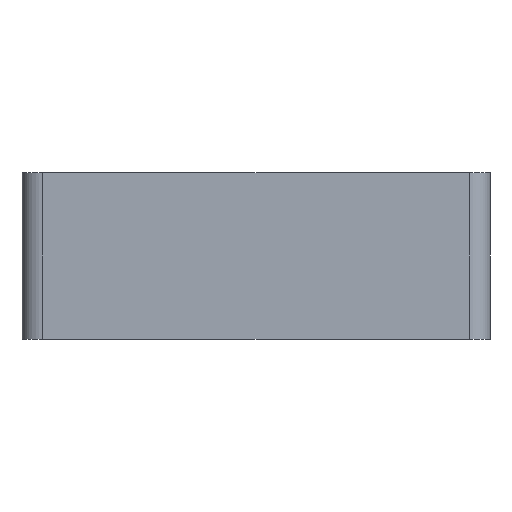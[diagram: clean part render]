
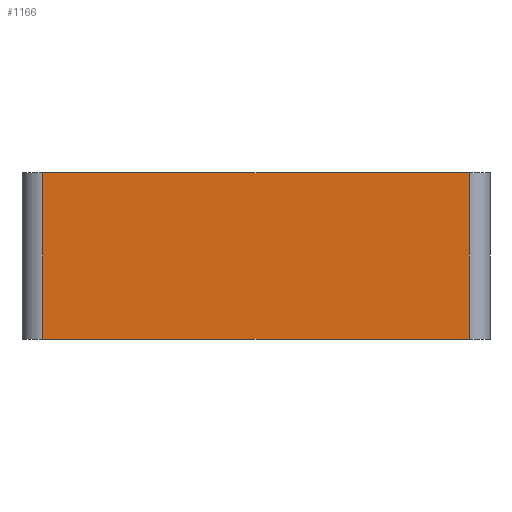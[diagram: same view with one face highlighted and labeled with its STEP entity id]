
A CAD part, left-side view. The second image highlights one B-rep face of the part: STEP entity #1166.
In plain terms, the highlighted planar face has unit normal (-1, 0, 0).
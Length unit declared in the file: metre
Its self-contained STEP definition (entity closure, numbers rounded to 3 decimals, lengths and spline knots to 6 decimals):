
#136=ORIENTED_EDGE('',*,*,#444,.T.);
#137=ORIENTED_EDGE('',*,*,#445,.F.);
#138=ORIENTED_EDGE('',*,*,#446,.F.);
#139=ORIENTED_EDGE('',*,*,#401,.F.);
#401=EDGE_CURVE('',#560,#561,#671,.T.);
#444=EDGE_CURVE('',#560,#597,#710,.T.);
#445=EDGE_CURVE('',#598,#597,#711,.T.);
#446=EDGE_CURVE('',#561,#598,#712,.T.);
#560=VERTEX_POINT('',#1719);
#561=VERTEX_POINT('',#1721);
#597=VERTEX_POINT('',#1803);
#598=VERTEX_POINT('',#1807);
#671=LINE('',#1720,#807);
#710=LINE('',#1804,#846);
#711=LINE('',#1806,#847);
#712=LINE('',#1808,#848);
#807=VECTOR('',#1373,1.);
#846=VECTOR('',#1428,1.);
#847=VECTOR('',#1431,1.);
#848=VECTOR('',#1432,1.);
#934=EDGE_LOOP('',(#136,#137,#138,#139));
#1028=FACE_BOUND('',#934,.T.);
#1113=PLANE('',#1256);
#1166=ADVANCED_FACE('',(#1028),#1113,.F.);
#1256=AXIS2_PLACEMENT_3D('',#1805,#1429,#1430);
#1373=DIRECTION('',(0.,-1.,0.));
#1428=DIRECTION('',(0.,0.,-1.));
#1429=DIRECTION('',(1.,0.,0.));
#1430=DIRECTION('',(0.,1.,0.));
#1431=DIRECTION('',(0.,1.,0.));
#1432=DIRECTION('',(0.,0.,-1.));
#1719=CARTESIAN_POINT('',(-0.03675,-0.040244,0.01246));
#1720=CARTESIAN_POINT('',(-0.03675,-0.060794,0.01246));
#1721=CARTESIAN_POINT('',(-0.03675,-0.081344,0.01246));
#1803=CARTESIAN_POINT('',(-0.03675,-0.040244,-0.00354));
#1804=CARTESIAN_POINT('',(-0.03675,-0.040244,0.01246));
#1805=CARTESIAN_POINT('',(-0.03675,-0.060794,0.01246));
#1806=CARTESIAN_POINT('',(-0.03675,-0.060794,-0.00354));
#1807=CARTESIAN_POINT('',(-0.03675,-0.081344,-0.00354));
#1808=CARTESIAN_POINT('',(-0.03675,-0.081344,0.01246));
